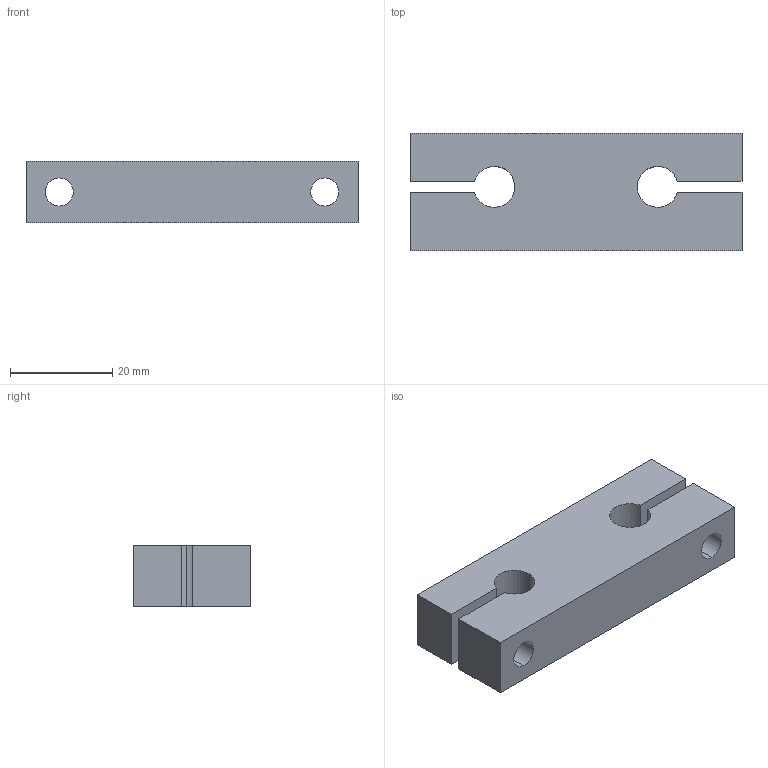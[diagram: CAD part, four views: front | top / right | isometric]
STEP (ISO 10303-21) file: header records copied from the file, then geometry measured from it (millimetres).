
FILE_DESCRIPTION (( 'STEP AP214' ), '1' );
FILE_NAME ('KTA-08.step', '2020-03-04T13:37:34', ( '' ), ( '' ), 'SwSTEP 2.0', 'SolidWorks 2019', '' );
FILE_SCHEMA (( 'AUTOMOTIVE_DESIGN' ));
Length unit declared in the file: millimetre
Products named in the file (1): KTA-08
Bounding box: 65 x 23 x 12 mm (x, y, z)
Volume: 14311.5 mm3; surface area: 6645.9 mm2
Topology: 1 solids, 1 shells, 35 faces, 89 edges, 57 vertices
Faces by surface type: cylinder 17, plane 14, cone 4
Entity records: 1103 total; most frequent: DIRECTION 195, CARTESIAN_POINT 180, ORIENTED_EDGE 174, EDGE_CURVE 87, AXIS2_PLACEMENT_3D 72, VERTEX_POINT 57, VECTOR 51, LINE 51
